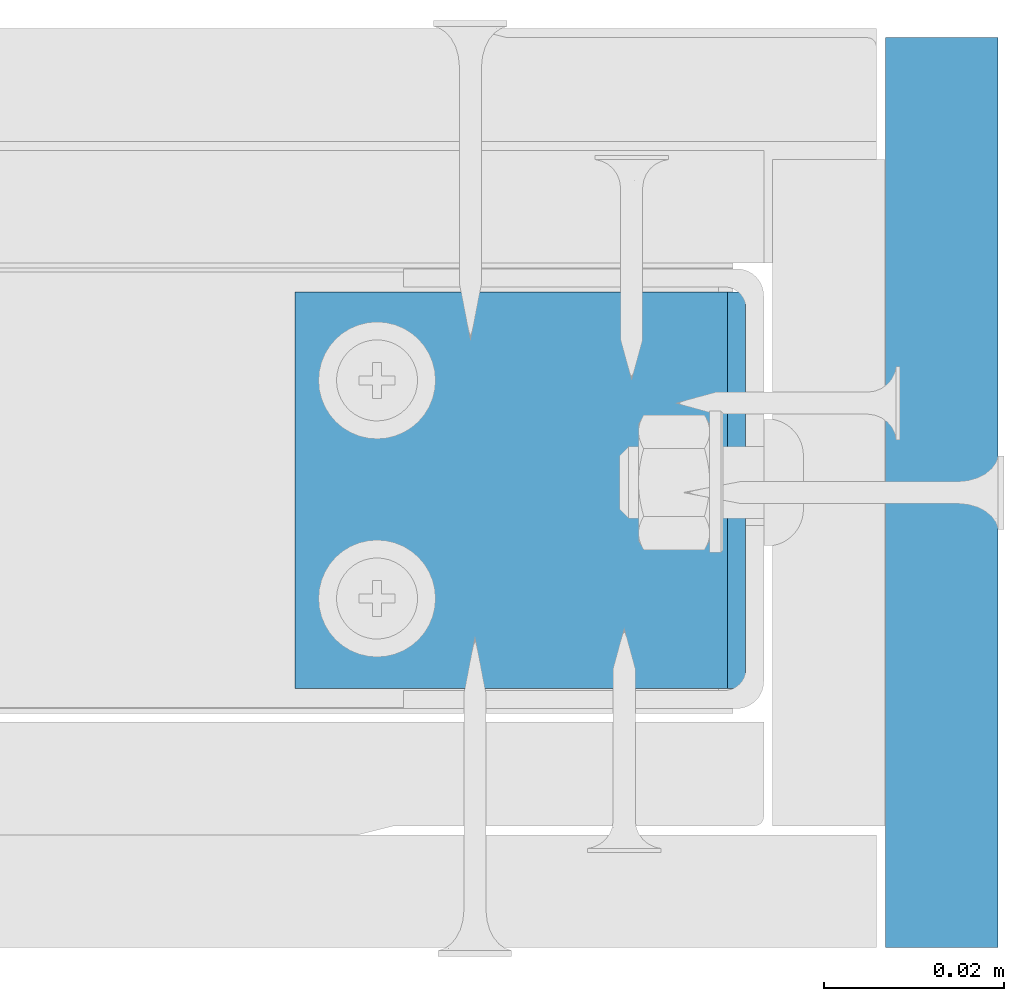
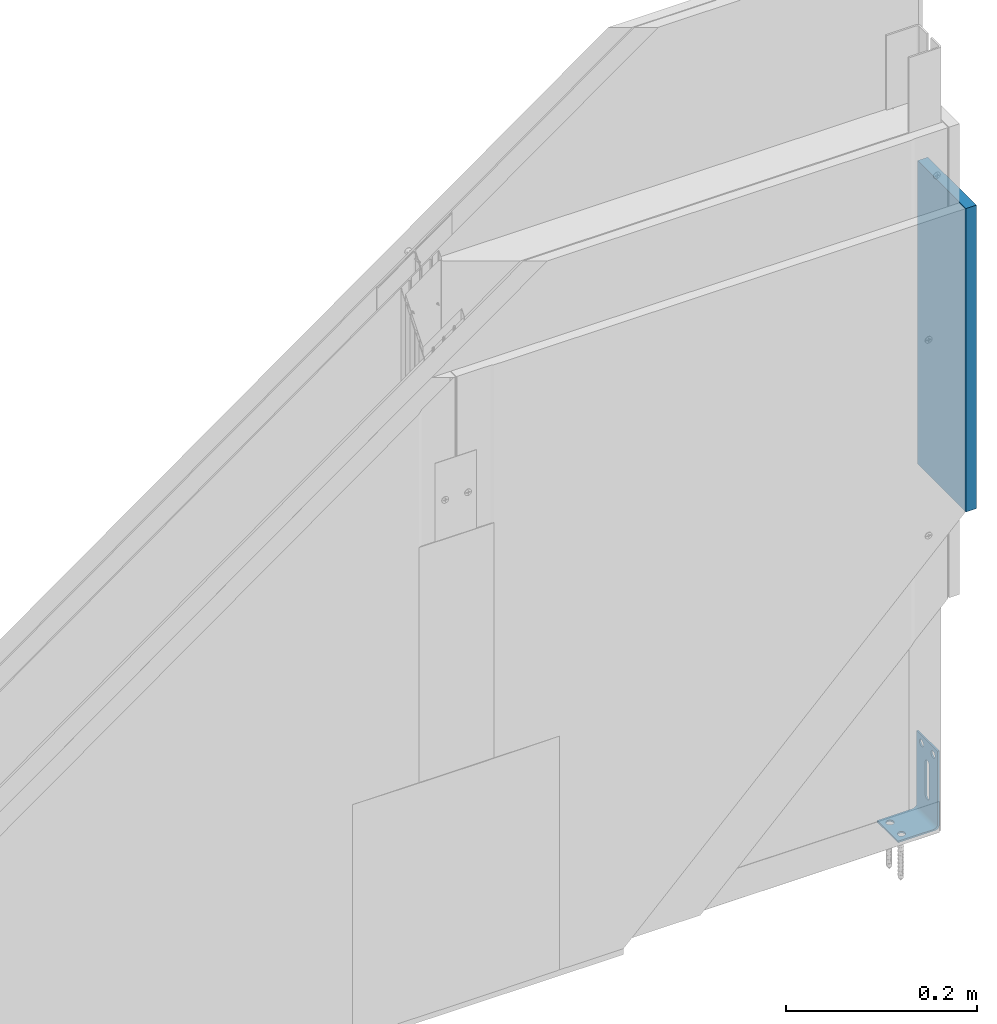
# One storey, part 4 of 52: 2 walls.
"""IFC2X3 building model written with IfcOpenShell, lengths in millimetres."""

import ifcopenshell
import ifcopenshell.guid

model = None  # the IFC model being written
_history = None  # IfcOwnerHistory: only IFC2X3 demands one
_inside = {}  # id of a spatial element -> (the spatial element, [elements in it])
_under = {}  # id of a project, library or spatial element -> (it, [spatial elements below it])
_declared = {}  # id of a project -> (the project, [libraries it declares])
_typed = {}  # id of a type object -> (the type object, [elements of that type])
_made_of = {}  # id of a material, layer set ... -> (it, [elements and type objects made of it])


def new_model(schema):
    """Start an empty IFC model of exactly this schema.

    Asked for "IFC4X3", IfcOpenShell would pick the latest addendum, in which some entities
    have other attributes; the version numbers below select the first issue.
    IFC2X3 requires an IfcOwnerHistory on every rooted entity: one is made here for all.
    """
    global model, _history
    if schema == "IFC4X3":
        model = ifcopenshell.file(schema_version=(4, 3, 0, 0))
    else:
        model = ifcopenshell.file(schema=schema)
    _inside.clear()
    _under.clear()
    _declared.clear()
    _typed.clear()
    _made_of.clear()
    _history = None
    if model.schema == "IFC2X3":
        org = make("IfcOrganization", Name="unknown")
        user = make(
            "IfcPersonAndOrganization",
            ThePerson=make("IfcPerson", FamilyName="unknown"),
            TheOrganization=org,
        )
        app = make(
            "IfcApplication",
            ApplicationDeveloper=org,
            Version="unknown",
            ApplicationFullName="unknown",
            ApplicationIdentifier="unknown",
        )
        _history = make(
            "IfcOwnerHistory",
            OwningUser=user,
            OwningApplication=app,
            ChangeAction="ADDED",
            CreationDate=0,
        )
    return model


def make(cls, **values):
    """One entity of the class cls with the attributes given. An attribute that is None is left unset."""
    return model.create_entity(
        cls, **{name: value for name, value in values.items() if value is not None}
    )


def entity(cls, *values):
    """Any entity or typed value of the class cls, its attributes in the order of the schema. None: left unset."""
    e = model.create_entity(cls)
    for i, value in enumerate(values):
        if value is not None:
            e[i] = value
    return e


def rooted(cls, **values):
    """An entity with a GlobalId (a new one), such as an element, a storey or a relation."""
    return make(cls, GlobalId=ifcopenshell.guid.new(), OwnerHistory=_history, **values)


def si_unit(unit_type, name, prefix=None):
    """IfcSIUnit, for example si_unit("LENGTHUNIT", "METRE", prefix="MILLI")."""
    return make("IfcSIUnit", UnitType=unit_type, Prefix=prefix, Name=name)


def converted_unit(unit_type, name, factor, base, dimensions=None, offset=None):
    """IfcConversionBasedUnit, such as the inch: factor (a typed value) times the base unit."""
    return make(
        "IfcConversionBasedUnit"
        if offset is None
        else "IfcConversionBasedUnitWithOffset",
        ConversionOffset=offset,
        Dimensions=None
        if dimensions is None
        else entity("IfcDimensionalExponents", *dimensions),
        UnitType=unit_type,
        Name=name,
        ConversionFactor=make(
            "IfcMeasureWithUnit", ValueComponent=factor, UnitComponent=base
        ),
    )


def assignment(units):
    """IfcUnitAssignment: the units of a project."""
    return None if units is None else make("IfcUnitAssignment", Units=units)


def point(xyz):
    """IfcCartesianPoint."""
    return None if xyz is None else make("IfcCartesianPoint", Coordinates=xyz)


def direction(xyz):
    """IfcDirection."""
    return None if xyz is None else make("IfcDirection", DirectionRatios=xyz)


def frame(location, z_axis=None, x_axis=None):
    """IfcAxis2Placement3D, a coordinate frame: its origin and axes. An axis left out is left unset."""
    return make(
        "IfcAxis2Placement3D",
        Location=point(location),
        Axis=direction(z_axis),
        RefDirection=direction(x_axis),
    )


def origin():
    """The frame at (0, 0, 0) with its axes left unset."""
    return frame((0.0, 0.0, 0.0))


def origin_with_axes():
    """The frame at (0, 0, 0) with the z axis (0, 0, 1) and the x axis (1, 0, 0) written out."""
    return frame((0.0, 0.0, 0.0), z_axis=(0.0, 0.0, 1.0), x_axis=(1.0, 0.0, 0.0))


def place(relative_to, where):
    """IfcLocalPlacement: puts the frame where relative to a parent placement (None: the world)."""
    return make(
        "IfcLocalPlacement", PlacementRelTo=relative_to, RelativePlacement=where
    )


def context(
    kind, dimensions, precision=None, world=None, true_north=None, identifier=None
):
    """IfcGeometricRepresentationContext, for example the 3D "Model" context."""
    return make(
        "IfcGeometricRepresentationContext",
        ContextIdentifier=identifier,
        ContextType=kind,
        CoordinateSpaceDimension=dimensions,
        Precision=precision,
        WorldCoordinateSystem=world,
        TrueNorth=true_north,
    )


def project(units=None, contexts=None):
    """IfcProject with its units and contexts."""
    return rooted(
        "IfcProject",
        Name="project",
        RepresentationContexts=contexts,
        UnitsInContext=assignment(units),
    )


def spatial(cls, under=None, at=None, **own):
    """A site, building, storey or space (cls), placed at a placement, below another one or the project."""
    s = rooted(cls, ObjectPlacement=at, **own)
    if under is not None:
        _under.setdefault(under.id(), (under, []))[1].append(s)
    return s


def faces_of(points, faces, orient=None, outer=None):
    """IfcFace entities. A face is a list of loops; a loop is a list of indices into points, from 0.

    orient and outer hold one flag for each loop. By default every Orientation is true, the
    first loop of a face is its IfcFaceOuterBound and the others are IfcFaceBound.
    """
    made = []
    for i, loops in enumerate(faces):
        bounds = []
        for j, loop in enumerate(loops):
            is_outer = j == 0 if outer is None else outer[i][j]
            bounds.append(
                make(
                    "IfcFaceOuterBound" if is_outer else "IfcFaceBound",
                    Bound=make("IfcPolyLoop", Polygon=[points[k] for k in loop]),
                    Orientation=True if orient is None else orient[i][j],
                )
            )
        made.append(make("IfcFace", Bounds=bounds))
    return made


def faceted_brep(points, faces, orient=None, outer=None, voids=None):
    """IfcFacetedBrep: a solid bounded by flat faces; with voids (closed shells), ...WithVoids."""
    shared = [point(p) for p in points]
    hull = make("IfcClosedShell", CfsFaces=faces_of(shared, faces, orient, outer))
    if voids is None:
        return make("IfcFacetedBrep", Outer=hull)
    return make(
        "IfcFacetedBrepWithVoids",
        Outer=hull,
        Voids=[
            make(cls, CfsFaces=faces_of(shared, fs, o, b)) for cls, fs, o, b in voids
        ],
    )


def shape(context_of_items, identifier, shape_type, items):
    """IfcShapeRepresentation: the items that make up one representation, for example the "Body"."""
    return make(
        "IfcShapeRepresentation",
        ContextOfItems=context_of_items,
        RepresentationIdentifier=identifier,
        RepresentationType=shape_type,
        Items=items,
    )


def made_of(thing, what):
    """Note that an element or type object is made of a material, layer set ...; save() writes the relation."""
    if what is not None:
        _made_of.setdefault(what.id(), (what, []))[1].append(thing)
    return thing


def element(
    cls,
    number,
    at=None,
    inside=None,
    cuts=None,
    type_object=None,
    material=None,
    context=None,
    identifier="Body",
    shape_type=None,
    held_by="IfcProductDefinitionShape",
    body=None,
    shapes=None,
    **own,
):
    """One element of the class cls, such as IfcWall. Its Tag is "e" and its number.

    at: its placement. inside: the storey or other place that contains it. cuts: it is an
    opening in that element (IfcRelVoidsElement). A single representation is given by context,
    identifier, shape_type and body (its items); several are given by shapes. held_by: the class
    of the entity that holds the representations. save() writes the other relations.
    """
    e = rooted(cls, Tag="e%d" % number, ObjectPlacement=at, **own)
    if body is not None:
        shapes = [shape(context, identifier, shape_type, body)]
    if shapes is not None:
        e.Representation = make(held_by, Representations=shapes)
    if inside is not None:
        _inside.setdefault(inside.id(), (inside, []))[1].append(e)
    if cuts is not None:
        rooted(
            "IfcRelVoidsElement", RelatingBuildingElement=cuts, RelatedOpeningElement=e
        )
    if type_object is not None:
        _typed.setdefault(type_object.id(), (type_object, []))[1].append(e)
    return made_of(e, material)


def aggregate(whole, parts):
    """IfcRelAggregates: a whole, such as a stair, and the parts it consists of."""
    return rooted("IfcRelAggregates", RelatingObject=whole, RelatedObjects=parts)


def save(model, path):
    """Write the relations noted so far, then the file.

    IfcRelAggregates (storeys below a building ...), IfcRelContainedInSpatialStructure (elements
    in a storey), IfcRelDefinesByType, IfcRelAssociatesMaterial and IfcRelDeclares: one each for
    every whole, place, type object, material and project.
    """
    for whole, parts in _under.values():
        aggregate(whole, parts)
    for where, things in _inside.values():
        rooted(
            "IfcRelContainedInSpatialStructure",
            RelatedElements=things,
            RelatingStructure=where,
        )
    for kind, things in _typed.values():
        rooted("IfcRelDefinesByType", RelatedObjects=things, RelatingType=kind)
    for what, things in _made_of.values():
        rooted("IfcRelAssociatesMaterial", RelatedObjects=things, RelatingMaterial=what)
    for by, libraries in _declared.values():
        rooted("IfcRelDeclares", RelatingContext=by, RelatedDefinitions=libraries)
    model.write(path)


model = new_model("IFC2X3")

# Units and contexts
model_context = context("Model", 3, precision=1e-05, world=origin(), true_north=direction((0.0, 1.0, 0.0)))
ifc_project = project(units=[si_unit("LENGTHUNIT", "METRE", prefix="MILLI"), si_unit("AREAUNIT", "SQUARE_METRE"), si_unit("VOLUMEUNIT", "CUBIC_METRE"), converted_unit("PLANEANGLEUNIT", "DEGREE", entity("IfcPlaneAngleMeasure", 0.01745), si_unit("PLANEANGLEUNIT", "RADIAN"), dimensions=[0, 0, 0, 0, 0, 0, 0]), si_unit("SOLIDANGLEUNIT", "STERADIAN"), si_unit("MASSUNIT", "GRAM"), si_unit("TIMEUNIT", "SECOND"), si_unit("THERMODYNAMICTEMPERATUREUNIT", "DEGREE_CELSIUS"), si_unit("LUMINOUSINTENSITYUNIT", "LUMEN")], contexts=[model_context])

# Site, building, storey
site_placement = place(None, origin_with_axes())
site = spatial("IfcSite", under=ifc_project, at=site_placement, Name="Default Site", CompositionType="ELEMENT")
building_placement = place(site_placement, origin_with_axes())
building = spatial("IfcBuilding", under=site, at=building_placement, Name="Default Building", CompositionType="ELEMENT")
storey_placement = place(building_placement, origin_with_axes())
storey = spatial("IfcBuildingStorey", under=building, at=storey_placement, Name="Default Building Storey", CompositionType="ELEMENT", Elevation=0.0)

# Walls
wall_1_placement = place(storey_placement, frame((3436.429648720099, 2018.940922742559, 55.74039522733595), z_axis=(0.0, 0.0, 1.0), x_axis=(4.996003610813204e-16, -1.0, 0.0)))
element("IfcWall", 1, at=wall_1_placement, inside=storey, Name="Katownik RIGIPS do UA50", context=model_context, shape_type="Brep", body=[
    faceted_brep([(0.0, 50.0, 5.000000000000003), (0.0, 49.93844170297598, 4.217827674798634), (0.0, 49.75528258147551, 3.454915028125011), (0.0, 49.45503262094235, 2.730047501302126), (0.0, 49.04508497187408, 2.06107373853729), (0.0, 48.53553390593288, 1.46446609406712), (0.0, 47.9389262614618, 0.9549150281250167), (0.0, 47.26995249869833, 0.5449673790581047), (0.0, 46.54508497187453, 0.2447174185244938), (0.0, 45.78217232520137, 0.06155829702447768), (0.0, 45.00000000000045, 0.0), (0.0, 0.0, 0.0), (0.0, 0.0, 1.999999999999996), (0.0, 42.99999999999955, 1.999999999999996), (0.0, 43.78217232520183, 2.061558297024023), (0.0, 44.54508497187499, 2.244717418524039), (0.0, 45.26995249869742, 2.544967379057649), (0.0, 45.93892626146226, 2.954915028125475), (0.0, 46.53553390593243, 3.464466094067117), (0.0, 47.04508497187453, 4.061073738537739), (0.0, 47.45503262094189, 4.730047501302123), (0.0, 47.75528258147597, 5.454915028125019), (0.0, 47.93844170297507, 6.21782767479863), (0.0, 47.99999999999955, 6.999999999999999), (0.0, 47.99999999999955, 100.0), (0.0, 50.0, 100.0), (44.0, 47.93844170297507, 6.21782767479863), (44.0, 47.75528258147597, 5.454915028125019), (44.0, 47.45503262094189, 4.730047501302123), (44.0, 47.04508497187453, 4.061073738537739), (44.0, 46.53553390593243, 3.464466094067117), (44.0, 45.93892626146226, 2.954915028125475), (44.0, 45.26995249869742, 2.544967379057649), (44.0, 44.54508497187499, 2.244717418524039), (44.0, 43.78217232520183, 2.061558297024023), (44.0, 42.99999999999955, 1.999999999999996), (44.0, 0.0, 1.999999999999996), (44.0, 0.0, 0.0), (44.0, 45.00000000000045, 0.0), (44.0, 45.78217232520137, 0.06155829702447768), (44.0, 46.54508497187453, 0.2447174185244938), (44.0, 47.26995249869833, 0.5449673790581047), (44.0, 47.9389262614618, 0.9549150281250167), (44.0, 48.53553390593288, 1.46446609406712), (44.0, 49.04508497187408, 2.06107373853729), (44.0, 49.45503262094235, 2.730047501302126), (44.0, 49.75528258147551, 3.454915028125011), (44.0, 49.93844170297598, 4.217827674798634), (44.0, 50.0, 5.000000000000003), (44.0, 50.0, 100.0), (44.0, 47.99999999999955, 100.0), (44.0, 47.99999999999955, 6.999999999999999), (14.19767544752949, 9.335153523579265, 0.0), (29.75000000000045, 9.999999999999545, 0.0), (29.80232455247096, 9.335153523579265, 0.0), (14.04199019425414, 8.686677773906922, 0.0), (32.07054037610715, 6.213222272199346, 0.0), (32.68667777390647, 5.958009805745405, 0.0), (33.33515352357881, 5.802324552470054, 0.0), (33.99999999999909, 5.75, 0.0), (34.66484647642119, 5.802324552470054, 0.0), (35.31332222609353, 5.958009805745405, 0.0), (35.92945962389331, 6.213222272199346, 0.0), (36.49808732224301, 6.561677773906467, 0.0), (37.00520382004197, 6.994796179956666, 0.0), (37.43832222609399, 7.501912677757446, 0.0), (37.7867777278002, 8.070540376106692, 0.0), (38.04199019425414, 8.686677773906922, 0.0), (38.19767544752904, 9.335153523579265, 0.0), (38.24999999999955, 9.999999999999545, 0.0), (38.19767544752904, 10.66484647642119, 0.0), (38.04199019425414, 11.31332222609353, 0.0), (37.7867777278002, 11.92945962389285, 0.0), (37.43832222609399, 12.49808732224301, 0.0), (37.00520382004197, 13.00520382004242, 0.0), (36.49808732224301, 13.43832222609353, 0.0), (35.92945962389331, 13.7867777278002, 0.0), (35.31332222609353, 14.04199019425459, 0.0), (34.66484647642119, 14.19767544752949, 0.0), (33.99999999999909, 14.25, 0.0), (33.33515352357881, 14.19767544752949, 0.0), (32.68667777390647, 14.04199019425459, 0.0), (32.07054037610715, 13.7867777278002, 0.0), (31.50191267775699, 13.43832222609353, 0.0), (30.99479617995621, 13.00520382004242, 0.0), (30.56167777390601, 12.49808732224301, 0.0), (30.21322227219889, 11.92945962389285, 0.0), (29.95800980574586, 11.31332222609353, 0.0), (29.80232455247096, 10.66484647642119, 0.0), (14.24999999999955, 9.999999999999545, 0.0), (14.19767544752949, 10.66484647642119, 0.0), (14.04199019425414, 11.31332222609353, 0.0), (13.78677772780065, 11.92945962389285, 0.0), (13.43832222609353, 12.49808732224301, 0.0), (13.00520382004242, 13.00520382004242, 0.0), (12.49808732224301, 13.43832222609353, 0.0), (11.92945962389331, 13.7867777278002, 0.0), (11.31332222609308, 14.04199019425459, 0.0), (10.66484647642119, 14.19767544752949, 0.0), (9.999999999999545, 14.25, 0.0), (9.335153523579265, 14.19767544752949, 0.0), (8.686677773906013, 14.04199019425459, 0.0), (8.070540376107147, 13.7867777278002, 0.0), (7.501912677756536, 13.43832222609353, 0.0), (6.994796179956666, 13.00520382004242, 0.0), (6.561677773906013, 12.49808732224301, 0.0), (6.213222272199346, 11.92945962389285, 0.0), (5.958009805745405, 11.31332222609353, 0.0), (5.802324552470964, 10.66484647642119, 0.0), (5.75, 9.999999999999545, 0.0), (5.802324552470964, 9.335153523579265, 0.0), (5.958009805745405, 8.686677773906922, 0.0), (6.213222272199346, 8.070540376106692, 0.0), (6.561677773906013, 7.501912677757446, 0.0), (6.994796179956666, 6.994796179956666, 0.0), (7.501912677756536, 6.561677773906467, 0.0), (8.070540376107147, 6.213222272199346, 0.0), (8.686677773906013, 5.958009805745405, 0.0), (9.335153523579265, 5.802324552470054, 0.0), (9.999999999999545, 5.75, 0.0), (10.66484647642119, 5.802324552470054, 0.0), (11.31332222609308, 5.958009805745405, 0.0), (11.92945962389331, 6.213222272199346, 0.0), (12.49808732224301, 6.561677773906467, 0.0), (13.00520382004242, 6.994796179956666, 0.0), (13.43832222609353, 7.501912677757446, 0.0), (13.78677772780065, 8.070540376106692, 0.0), (29.95800980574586, 8.686677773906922, 0.0), (30.21322227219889, 8.070540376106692, 0.0), (30.56167777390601, 7.501912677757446, 0.0), (30.99479617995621, 6.994796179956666, 0.0), (31.50191267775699, 6.561677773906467, 0.0), (14.24999999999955, 9.999999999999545, 1.999999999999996), (14.19767544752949, 9.335153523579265, 1.999999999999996), (29.80232455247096, 10.66484647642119, 1.999999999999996), (29.95800980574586, 11.31332222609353, 1.999999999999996), (5.958009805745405, 11.31332222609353, 1.999999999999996), (6.213222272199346, 11.92945962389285, 1.999999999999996), (6.561677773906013, 12.49808732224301, 1.999999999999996), (6.994796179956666, 13.00520382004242, 1.999999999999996), (7.501912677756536, 13.43832222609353, 1.999999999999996), (8.070540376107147, 13.7867777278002, 1.999999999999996), (8.686677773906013, 14.04199019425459, 1.999999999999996), (9.335153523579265, 14.19767544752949, 1.999999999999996), (9.999999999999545, 14.25, 1.999999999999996), (10.66484647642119, 14.19767544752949, 1.999999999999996), (11.31332222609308, 14.04199019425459, 1.999999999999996), (11.92945962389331, 13.7867777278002, 1.999999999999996), (12.49808732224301, 13.43832222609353, 1.999999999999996), (13.00520382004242, 13.00520382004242, 1.999999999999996), (13.43832222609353, 12.49808732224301, 1.999999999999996), (13.78677772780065, 11.92945962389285, 1.999999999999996), (14.04199019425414, 11.31332222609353, 1.999999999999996), (14.19767544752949, 10.66484647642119, 1.999999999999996), (30.21322227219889, 11.92945962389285, 1.999999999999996), (30.56167777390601, 12.49808732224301, 1.999999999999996), (30.99479617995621, 13.00520382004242, 1.999999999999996), (31.50191267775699, 13.43832222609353, 1.999999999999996), (32.07054037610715, 13.7867777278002, 1.999999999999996), (32.68667777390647, 14.04199019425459, 1.999999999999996), (33.33515352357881, 14.19767544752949, 1.999999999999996), (33.99999999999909, 14.25, 1.999999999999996), (34.66484647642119, 14.19767544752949, 1.999999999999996), (35.31332222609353, 14.04199019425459, 1.999999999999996), (35.92945962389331, 13.7867777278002, 1.999999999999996), (36.49808732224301, 13.43832222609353, 1.999999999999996), (37.00520382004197, 13.00520382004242, 1.999999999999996), (37.43832222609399, 12.49808732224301, 1.999999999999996), (37.7867777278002, 11.92945962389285, 1.999999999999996), (38.04199019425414, 11.31332222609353, 1.999999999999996), (38.19767544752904, 10.66484647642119, 1.999999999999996), (38.24999999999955, 9.999999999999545, 1.999999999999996), (38.19767544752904, 9.335153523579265, 1.999999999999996), (38.04199019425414, 8.686677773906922, 1.999999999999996), (37.7867777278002, 8.070540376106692, 1.999999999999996), (37.43832222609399, 7.501912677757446, 1.999999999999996), (37.00520382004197, 6.994796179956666, 1.999999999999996), (36.49808732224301, 6.561677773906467, 1.999999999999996), (35.92945962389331, 6.213222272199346, 1.999999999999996), (35.31332222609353, 5.958009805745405, 1.999999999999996), (34.66484647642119, 5.802324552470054, 1.999999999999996), (33.99999999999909, 5.75, 1.999999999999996), (33.33515352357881, 5.802324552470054, 1.999999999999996), (32.68667777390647, 5.958009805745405, 1.999999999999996), (32.07054037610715, 6.213222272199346, 1.999999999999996), (31.50191267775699, 6.561677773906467, 1.999999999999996), (30.99479617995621, 6.994796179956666, 1.999999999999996), (30.56167777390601, 7.501912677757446, 1.999999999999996), (30.21322227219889, 8.070540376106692, 1.999999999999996), (29.95800980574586, 8.686677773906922, 1.999999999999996), (29.80232455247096, 9.335153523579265, 1.999999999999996), (29.75000000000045, 9.999999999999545, 1.999999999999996), (14.04199019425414, 8.686677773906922, 1.999999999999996), (13.78677772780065, 8.070540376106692, 1.999999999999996), (13.43832222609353, 7.501912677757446, 1.999999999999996), (13.00520382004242, 6.994796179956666, 1.999999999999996), (12.49808732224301, 6.561677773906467, 1.999999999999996), (11.92945962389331, 6.213222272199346, 1.999999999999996), (11.31332222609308, 5.958009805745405, 1.999999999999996), (10.66484647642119, 5.802324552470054, 1.999999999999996), (9.999999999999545, 5.75, 1.999999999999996), (9.335153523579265, 5.802324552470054, 1.999999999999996), (8.686677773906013, 5.958009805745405, 1.999999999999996), (8.070540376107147, 6.213222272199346, 1.999999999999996), (7.501912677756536, 6.561677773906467, 1.999999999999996), (6.994796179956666, 6.994796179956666, 1.999999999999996), (6.561677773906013, 7.501912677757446, 1.999999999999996), (6.213222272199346, 8.070540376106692, 1.999999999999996), (5.958009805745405, 8.686677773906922, 1.999999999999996), (5.802324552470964, 9.335153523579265, 1.999999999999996), (5.75, 9.999999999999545, 1.999999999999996), (5.802324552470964, 10.66484647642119, 1.999999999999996), (20.07054037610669, 47.99999999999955, 74.53677772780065), (20.68667777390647, 47.99999999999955, 74.7919901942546), (21.33515352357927, 47.99999999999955, 74.94767544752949), (22.0, 47.99999999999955, 75.0), (22.66484647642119, 47.99999999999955, 74.94767544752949), (23.31332222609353, 47.99999999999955, 74.7919901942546), (29.75000000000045, 47.99999999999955, 90.0), (29.80232455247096, 47.99999999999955, 90.66484647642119), (14.19767544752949, 47.99999999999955, 89.33515352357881), (14.04199019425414, 47.99999999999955, 88.68667777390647), (22.0, 47.99999999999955, 25.0), (22.66484647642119, 47.99999999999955, 25.05232455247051), (21.33515352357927, 47.99999999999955, 25.05232455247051), (20.68667777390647, 47.99999999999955, 25.20800980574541), (20.07054037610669, 47.99999999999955, 25.46322227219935), (19.50191267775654, 47.99999999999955, 25.81167777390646), (18.99479617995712, 47.99999999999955, 26.24479617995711), (18.56167777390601, 47.99999999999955, 26.75191267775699), (18.21322227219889, 47.99999999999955, 27.32054037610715), (17.95800980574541, 47.99999999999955, 27.93667777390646), (17.80232455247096, 47.99999999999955, 28.5851535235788), (17.75, 47.99999999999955, 29.25), (17.75, 47.99999999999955, 70.75), (17.80232455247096, 47.99999999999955, 71.41484647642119), (17.95800980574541, 47.99999999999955, 72.06332222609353), (18.21322227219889, 47.99999999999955, 72.67945962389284), (18.56167777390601, 47.99999999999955, 73.24808732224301), (18.99479617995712, 47.99999999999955, 73.7552038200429), (19.50191267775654, 47.99999999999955, 74.18832222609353), (13.78677772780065, 47.99999999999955, 88.07054037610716), (13.43832222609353, 47.99999999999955, 87.50191267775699), (13.00520382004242, 47.99999999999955, 86.99479617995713), (12.49808732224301, 47.99999999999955, 86.56167777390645), (11.92945962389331, 47.99999999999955, 86.21322227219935), (11.31332222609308, 47.99999999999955, 85.9580098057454), (10.66484647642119, 47.99999999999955, 85.80232455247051), (9.999999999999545, 47.99999999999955, 85.75), (9.335153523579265, 47.99999999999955, 85.80232455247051), (8.686677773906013, 47.99999999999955, 85.9580098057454), (8.070540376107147, 47.99999999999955, 86.21322227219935), (7.501912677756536, 47.99999999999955, 86.56167777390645), (6.994796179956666, 47.99999999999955, 86.99479617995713), (6.561677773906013, 47.99999999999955, 87.50191267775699), (6.213222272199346, 47.99999999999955, 88.07054037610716), (5.958009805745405, 47.99999999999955, 88.68667777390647), (5.802324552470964, 47.99999999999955, 89.33515352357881), (5.75, 47.99999999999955, 90.0), (5.802324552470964, 47.99999999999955, 90.66484647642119), (5.958009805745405, 47.99999999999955, 91.31332222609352), (6.213222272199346, 47.99999999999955, 91.92945962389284), (6.561677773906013, 47.99999999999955, 92.498087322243), (6.994796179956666, 47.99999999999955, 93.0052038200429), (7.501912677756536, 47.99999999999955, 93.43832222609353), (8.070540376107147, 47.99999999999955, 93.78677772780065), (8.686677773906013, 47.99999999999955, 94.0419901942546), (9.335153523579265, 47.99999999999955, 94.19767544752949), (9.999999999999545, 47.99999999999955, 94.25), (10.66484647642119, 47.99999999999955, 94.19767544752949), (11.31332222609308, 47.99999999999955, 94.0419901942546), (11.92945962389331, 47.99999999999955, 93.78677772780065), (12.49808732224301, 47.99999999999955, 93.43832222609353), (13.00520382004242, 47.99999999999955, 93.0052038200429), (13.43832222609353, 47.99999999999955, 92.498087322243), (13.78677772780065, 47.99999999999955, 91.92945962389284), (14.04199019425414, 47.99999999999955, 91.31332222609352), (14.19767544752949, 47.99999999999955, 90.66484647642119), (14.24999999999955, 47.99999999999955, 90.0), (29.95800980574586, 47.99999999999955, 91.31332222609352), (30.21322227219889, 47.99999999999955, 91.92945962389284), (30.56167777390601, 47.99999999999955, 92.498087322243), (30.99479617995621, 47.99999999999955, 93.0052038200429), (31.50191267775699, 47.99999999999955, 93.43832222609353), (32.07054037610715, 47.99999999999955, 93.78677772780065), (32.68667777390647, 47.99999999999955, 94.0419901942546), (33.33515352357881, 47.99999999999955, 94.19767544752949), (33.99999999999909, 47.99999999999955, 94.25), (34.66484647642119, 47.99999999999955, 94.19767544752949), (35.31332222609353, 47.99999999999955, 94.0419901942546), (35.92945962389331, 47.99999999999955, 93.78677772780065), (36.49808732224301, 47.99999999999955, 93.43832222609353), (37.00520382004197, 47.99999999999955, 93.0052038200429), (37.43832222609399, 47.99999999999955, 92.498087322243), (37.7867777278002, 47.99999999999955, 91.92945962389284), (38.04199019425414, 47.99999999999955, 91.31332222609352), (38.19767544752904, 47.99999999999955, 90.66484647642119), (38.24999999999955, 47.99999999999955, 90.0), (38.19767544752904, 47.99999999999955, 89.33515352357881), (38.04199019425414, 47.99999999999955, 88.68667777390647), (37.7867777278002, 47.99999999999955, 88.07054037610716), (37.43832222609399, 47.99999999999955, 87.50191267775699), (37.00520382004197, 47.99999999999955, 86.99479617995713), (36.49808732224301, 47.99999999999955, 86.56167777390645), (35.92945962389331, 47.99999999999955, 86.21322227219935), (35.31332222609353, 47.99999999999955, 85.9580098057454), (34.66484647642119, 47.99999999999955, 85.80232455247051), (33.99999999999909, 47.99999999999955, 85.75), (33.33515352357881, 47.99999999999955, 85.80232455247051), (32.68667777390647, 47.99999999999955, 85.9580098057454), (32.07054037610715, 47.99999999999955, 86.21322227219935), (31.50191267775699, 47.99999999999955, 86.56167777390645), (30.99479617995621, 47.99999999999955, 86.99479617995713), (30.56167777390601, 47.99999999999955, 87.50191267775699), (30.21322227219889, 47.99999999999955, 88.07054037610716), (29.95800980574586, 47.99999999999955, 88.68667777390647), (29.80232455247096, 47.99999999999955, 89.33515352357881), (23.92945962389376, 47.99999999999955, 74.53677772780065), (24.49808732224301, 47.99999999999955, 74.18832222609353), (25.00520382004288, 47.99999999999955, 73.7552038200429), (25.43832222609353, 47.99999999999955, 73.24808732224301), (25.78677772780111, 47.99999999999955, 72.67945962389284), (26.04199019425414, 47.99999999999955, 72.06332222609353), (26.19767544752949, 47.99999999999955, 71.41484647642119), (26.24999999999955, 47.99999999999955, 70.75), (26.24999999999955, 47.99999999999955, 29.25), (26.19767544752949, 47.99999999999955, 28.5851535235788), (26.04199019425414, 47.99999999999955, 27.93667777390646), (25.78677772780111, 47.99999999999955, 27.32054037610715), (25.43832222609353, 47.99999999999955, 26.75191267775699), (25.00520382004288, 47.99999999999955, 26.24479617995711), (24.49808732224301, 47.99999999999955, 25.81167777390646), (23.92945962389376, 47.99999999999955, 25.46322227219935), (23.31332222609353, 47.99999999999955, 25.20800980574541), (29.80232455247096, 50.0, 90.66484647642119), (14.24999999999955, 50.0, 90.0), (14.19767544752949, 50.0, 90.66484647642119), (29.95800980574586, 50.0, 91.31332222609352), (9.335153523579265, 50.0, 85.80232455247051), (9.999999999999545, 50.0, 85.75), (17.75, 50.0, 29.25), (17.80232455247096, 50.0, 28.5851535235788), (22.0, 50.0, 25.0), (21.33515352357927, 50.0, 25.05232455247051), (22.66484647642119, 50.0, 25.05232455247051), (23.31332222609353, 50.0, 25.20800980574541), (23.92945962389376, 50.0, 25.46322227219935), (24.49808732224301, 50.0, 25.81167777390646), (25.00520382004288, 50.0, 26.24479617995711), (25.43832222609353, 50.0, 26.75191267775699), (25.78677772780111, 50.0, 27.32054037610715), (26.04199019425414, 50.0, 27.93667777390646), (26.19767544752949, 50.0, 28.5851535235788), (26.24999999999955, 50.0, 29.25), (26.24999999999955, 50.0, 70.75), (26.19767544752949, 50.0, 71.41484647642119), (26.04199019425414, 50.0, 72.06332222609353), (25.78677772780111, 50.0, 72.67945962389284), (25.43832222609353, 50.0, 73.24808732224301), (25.00520382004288, 50.0, 73.7552038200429), (24.49808732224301, 50.0, 74.18832222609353), (23.92945962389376, 50.0, 74.53677772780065), (23.31332222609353, 50.0, 74.7919901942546), (22.66484647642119, 50.0, 74.94767544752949), (22.0, 50.0, 75.0), (21.33515352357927, 50.0, 74.94767544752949), (20.68667777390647, 50.0, 74.7919901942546), (20.07054037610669, 50.0, 74.53677772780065), (19.50191267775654, 50.0, 74.18832222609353), (18.99479617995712, 50.0, 73.7552038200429), (18.56167777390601, 50.0, 73.24808732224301), (18.21322227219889, 50.0, 72.67945962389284), (17.95800980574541, 50.0, 72.06332222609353), (17.80232455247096, 50.0, 71.41484647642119), (17.75, 50.0, 70.75), (10.66484647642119, 50.0, 85.80232455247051), (11.31332222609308, 50.0, 85.9580098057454), (11.92945962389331, 50.0, 86.21322227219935), (12.49808732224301, 50.0, 86.56167777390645), (13.00520382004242, 50.0, 86.99479617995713), (13.43832222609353, 50.0, 87.50191267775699), (13.78677772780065, 50.0, 88.07054037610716), (14.04199019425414, 50.0, 88.68667777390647), (14.19767544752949, 50.0, 89.33515352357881), (29.75000000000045, 50.0, 90.0), (29.80232455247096, 50.0, 89.33515352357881), (29.95800980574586, 50.0, 88.68667777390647), (30.21322227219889, 50.0, 88.07054037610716), (30.56167777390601, 50.0, 87.50191267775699), (30.99479617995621, 50.0, 86.99479617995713), (31.50191267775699, 50.0, 86.56167777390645), (32.07054037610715, 50.0, 86.21322227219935), (32.68667777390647, 50.0, 85.9580098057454), (33.33515352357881, 50.0, 85.80232455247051), (33.99999999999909, 50.0, 85.75), (34.66484647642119, 50.0, 85.80232455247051), (35.31332222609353, 50.0, 85.9580098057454), (35.92945962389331, 50.0, 86.21322227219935), (36.49808732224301, 50.0, 86.56167777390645), (37.00520382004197, 50.0, 86.99479617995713), (37.43832222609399, 50.0, 87.50191267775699), (37.7867777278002, 50.0, 88.07054037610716), (38.04199019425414, 50.0, 88.68667777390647), (38.19767544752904, 50.0, 89.33515352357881), (38.24999999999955, 50.0, 90.0), (38.19767544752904, 50.0, 90.66484647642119), (38.04199019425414, 50.0, 91.31332222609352), (37.7867777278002, 50.0, 91.92945962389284), (37.43832222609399, 50.0, 92.498087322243), (37.00520382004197, 50.0, 93.0052038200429), (36.49808732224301, 50.0, 93.43832222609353), (35.92945962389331, 50.0, 93.78677772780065), (35.31332222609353, 50.0, 94.0419901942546), (34.66484647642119, 50.0, 94.19767544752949), (33.99999999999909, 50.0, 94.25), (33.33515352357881, 50.0, 94.19767544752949), (32.68667777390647, 50.0, 94.0419901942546), (32.07054037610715, 50.0, 93.78677772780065), (31.50191267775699, 50.0, 93.43832222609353), (30.99479617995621, 50.0, 93.0052038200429), (30.56167777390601, 50.0, 92.498087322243), (30.21322227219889, 50.0, 91.92945962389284), (14.04199019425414, 50.0, 91.31332222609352), (13.78677772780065, 50.0, 91.92945962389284), (13.43832222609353, 50.0, 92.498087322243), (13.00520382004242, 50.0, 93.0052038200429), (12.49808732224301, 50.0, 93.43832222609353), (11.92945962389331, 50.0, 93.78677772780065), (11.31332222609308, 50.0, 94.0419901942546), (10.66484647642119, 50.0, 94.19767544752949), (9.999999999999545, 50.0, 94.25), (9.335153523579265, 50.0, 94.19767544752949), (8.686677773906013, 50.0, 94.0419901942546), (8.070540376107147, 50.0, 93.78677772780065), (7.501912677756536, 50.0, 93.43832222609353), (6.994796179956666, 50.0, 93.0052038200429), (6.561677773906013, 50.0, 92.498087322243), (6.213222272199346, 50.0, 91.92945962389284), (5.958009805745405, 50.0, 91.31332222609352), (5.802324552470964, 50.0, 90.66484647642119), (5.75, 50.0, 90.0), (5.802324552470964, 50.0, 89.33515352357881), (5.958009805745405, 50.0, 88.68667777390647), (6.213222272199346, 50.0, 88.07054037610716), (6.561677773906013, 50.0, 87.50191267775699), (6.994796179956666, 50.0, 86.99479617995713), (7.501912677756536, 50.0, 86.56167777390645), (8.070540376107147, 50.0, 86.21322227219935), (8.686677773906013, 50.0, 85.9580098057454), (17.95800980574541, 50.0, 27.93667777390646), (18.21322227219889, 50.0, 27.32054037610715), (18.56167777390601, 50.0, 26.75191267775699), (18.99479617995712, 50.0, 26.24479617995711), (19.50191267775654, 50.0, 25.81167777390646), (20.07054037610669, 50.0, 25.46322227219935), (20.68667777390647, 50.0, 25.20800980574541)], [[[0, 1, 2, 3, 4, 5, 6, 7, 8, 9, 10, 11, 12, 13, 14, 15, 16, 17, 18, 19, 20, 21, 22, 23, 24, 25]], [[26, 27, 28, 29, 30, 31, 32, 33, 34, 35, 36, 37, 38, 39, 40, 41, 42, 43, 44, 45, 46, 47, 48, 49, 50, 51]], [[52, 53, 54, 55]], [[56, 57, 37, 11]], [[11, 10, 38, 37, 57, 58, 59, 60, 61, 62, 63, 64, 65, 66, 67, 68, 69, 70, 71, 72, 73, 74, 75, 76, 77, 78, 79, 80, 81, 82, 83, 84, 85, 86, 87, 88, 53, 52, 89, 90, 91, 92, 93, 94, 95, 96, 97, 98, 99, 100, 101, 102, 103, 104, 105, 106, 107, 108, 109, 110, 111, 112, 113, 114, 115, 116, 117, 118, 119, 120, 121, 122, 123, 124, 125, 126, 55, 54, 127, 128, 129, 130, 131, 56]], [[11, 37, 36, 12]], [[132, 133, 134, 135]], [[136, 137, 13, 12]], [[12, 36, 35, 13, 137, 138, 139, 140, 141, 142, 143, 144, 145, 146, 147, 148, 149, 150, 151, 152, 153, 132, 135, 154, 155, 156, 157, 158, 159, 160, 161, 162, 163, 164, 165, 166, 167, 168, 169, 170, 171, 172, 173, 174, 175, 176, 177, 178, 179, 180, 181, 182, 183, 184, 185, 186, 187, 188, 189, 190, 191, 134, 133, 192, 193, 194, 195, 196, 197, 198, 199, 200, 201, 202, 203, 204, 205, 206, 207, 208, 209, 210, 211, 136]], [[51, 23, 22, 26]], [[21, 27, 26, 22]], [[20, 28, 27, 21]], [[28, 20, 19, 29]], [[18, 30, 29, 19]], [[30, 18, 17, 31]], [[16, 32, 31, 17]], [[15, 33, 32, 16]], [[33, 15, 14, 34]], [[13, 35, 34, 14]], [[212, 213, 214, 215, 216, 217, 218, 219, 220, 221]], [[222, 23, 51, 223]], [[51, 50, 24, 23, 222, 224, 225, 226, 227, 228, 229, 230, 231, 232, 233, 234, 235, 236, 237, 238, 239, 240, 212, 221, 241, 242, 243, 244, 245, 246, 247, 248, 249, 250, 251, 252, 253, 254, 255, 256, 257, 258, 259, 260, 261, 262, 263, 264, 265, 266, 267, 268, 269, 270, 271, 272, 273, 274, 275, 276, 277, 278, 220, 219, 279, 280, 281, 282, 283, 284, 285, 286, 287, 288, 289, 290, 291, 292, 293, 294, 295, 296, 297, 298, 299, 300, 301, 302, 303, 304, 305, 306, 307, 308, 309, 310, 311, 312, 313, 314, 315, 316, 218, 217, 317, 318, 319, 320, 321, 322, 323, 324, 325, 326, 327, 328, 329, 330, 331, 332, 333, 223]], [[24, 50, 49, 25]], [[334, 335, 336, 337]], [[338, 339, 340, 341]], [[342, 48, 0, 343]], [[0, 25, 49, 48, 342, 344, 345, 346, 347, 348, 349, 350, 351, 352, 353, 354, 355, 356, 357, 358, 359, 360, 361, 362, 363, 364, 365, 366, 367, 368, 369, 370, 371, 372, 373, 374, 340, 339, 375, 376, 377, 378, 379, 380, 381, 382, 383, 335, 334, 384, 385, 386, 387, 388, 389, 390, 391, 392, 393, 394, 395, 396, 397, 398, 399, 400, 401, 402, 403, 404, 405, 406, 407, 408, 409, 410, 411, 412, 413, 414, 415, 416, 417, 418, 419, 420, 421, 337, 336, 422, 423, 424, 425, 426, 427, 428, 429, 430, 431, 432, 433, 434, 435, 436, 437, 438, 439, 440, 441, 442, 443, 444, 445, 446, 447, 448, 338, 341, 449, 450, 451, 452, 453, 454, 455, 343]], [[9, 8, 40, 39]], [[39, 38, 10, 9]], [[7, 41, 40, 8]], [[6, 5, 43, 42]], [[42, 41, 7, 6]], [[4, 3, 45, 44]], [[44, 43, 5, 4]], [[2, 46, 45, 3]], [[1, 0, 48, 47]], [[47, 46, 2, 1]], [[53, 191, 190, 54]], [[189, 127, 54, 190]], [[188, 128, 127, 189]], [[128, 188, 187, 129]], [[186, 130, 129, 187]], [[130, 186, 185, 131]], [[184, 56, 131, 185]], [[183, 57, 56, 184]], [[57, 183, 182, 58]], [[181, 59, 58, 182]], [[59, 181, 180, 60]], [[179, 61, 60, 180]], [[178, 62, 61, 179]], [[62, 178, 177, 63]], [[176, 64, 63, 177]], [[64, 176, 175, 65]], [[174, 66, 65, 175]], [[173, 67, 66, 174]], [[170, 70, 69, 171]], [[171, 69, 68, 172]], [[67, 173, 172, 68]], [[169, 71, 70, 170]], [[168, 72, 71, 169]], [[72, 168, 167, 73]], [[166, 74, 73, 167]], [[74, 166, 165, 75]], [[164, 76, 75, 165]], [[163, 77, 76, 164]], [[77, 163, 162, 78]], [[161, 79, 78, 162]], [[79, 161, 160, 80]], [[159, 81, 80, 160]], [[158, 82, 81, 159]], [[82, 158, 157, 83]], [[156, 84, 83, 157]], [[84, 156, 155, 85]], [[154, 86, 85, 155]], [[135, 87, 86, 154]], [[87, 135, 134, 88]], [[191, 53, 88, 134]], [[109, 210, 209, 110]], [[208, 111, 110, 209]], [[207, 112, 111, 208]], [[112, 207, 206, 113]], [[205, 114, 113, 206]], [[114, 205, 204, 115]], [[203, 116, 115, 204]], [[202, 117, 116, 203]], [[117, 202, 201, 118]], [[200, 119, 118, 201]], [[119, 200, 199, 120]], [[198, 121, 120, 199]], [[197, 122, 121, 198]], [[122, 197, 196, 123]], [[195, 124, 123, 196]], [[124, 195, 194, 125]], [[193, 126, 125, 194]], [[192, 55, 126, 193]], [[153, 90, 89, 132]], [[132, 89, 52, 133]], [[55, 192, 133, 52]], [[152, 91, 90, 153]], [[151, 92, 91, 152]], [[92, 151, 150, 93]], [[149, 94, 93, 150]], [[94, 149, 148, 95]], [[147, 96, 95, 148]], [[146, 97, 96, 147]], [[97, 146, 145, 98]], [[144, 99, 98, 145]], [[99, 144, 143, 100]], [[142, 101, 100, 143]], [[141, 102, 101, 142]], [[102, 141, 140, 103]], [[139, 104, 103, 140]], [[104, 139, 138, 105]], [[137, 106, 105, 138]], [[136, 107, 106, 137]], [[107, 136, 211, 108]], [[210, 109, 108, 211]], [[353, 325, 324, 354]], [[340, 233, 232, 341]], [[231, 449, 341, 232]], [[230, 450, 449, 231]], [[450, 230, 229, 451]], [[228, 452, 451, 229]], [[452, 228, 227, 453]], [[226, 454, 453, 227]], [[225, 455, 454, 226]], [[455, 225, 224, 343]], [[222, 342, 343, 224]], [[342, 222, 223, 344]], [[333, 345, 344, 223]], [[332, 346, 345, 333]], [[346, 332, 331, 347]], [[330, 348, 347, 331]], [[348, 330, 329, 349]], [[328, 350, 349, 329]], [[327, 351, 350, 328]], [[351, 327, 326, 352]], [[325, 353, 352, 326]], [[374, 234, 233, 340]], [[354, 324, 323, 355]], [[322, 356, 355, 323]], [[321, 357, 356, 322]], [[357, 321, 320, 358]], [[319, 359, 358, 320]], [[359, 319, 318, 360]], [[317, 361, 360, 318]], [[217, 362, 361, 317]], [[362, 217, 216, 363]], [[215, 364, 363, 216]], [[364, 215, 214, 365]], [[213, 366, 365, 214]], [[212, 367, 366, 213]], [[367, 212, 240, 368]], [[239, 369, 368, 240]], [[369, 239, 238, 370]], [[237, 371, 370, 238]], [[236, 372, 371, 237]], [[372, 236, 235, 373]], [[234, 374, 373, 235]], [[258, 440, 439, 259]], [[438, 260, 259, 439]], [[437, 261, 260, 438]], [[261, 437, 436, 262]], [[435, 263, 262, 436]], [[263, 435, 434, 264]], [[433, 265, 264, 434]], [[432, 266, 265, 433]], [[266, 432, 431, 267]], [[430, 268, 267, 431]], [[268, 430, 429, 269]], [[428, 270, 269, 429]], [[427, 271, 270, 428]], [[271, 427, 426, 272]], [[425, 273, 272, 426]], [[273, 425, 424, 274]], [[423, 275, 274, 424]], [[422, 276, 275, 423]], [[383, 220, 278, 335]], [[335, 278, 277, 336]], [[276, 422, 336, 277]], [[382, 221, 220, 383]], [[381, 241, 221, 382]], [[241, 381, 380, 242]], [[379, 243, 242, 380]], [[243, 379, 378, 244]], [[377, 245, 244, 378]], [[376, 246, 245, 377]], [[246, 376, 375, 247]], [[339, 248, 247, 375]], [[248, 339, 338, 249]], [[448, 250, 249, 338]], [[447, 251, 250, 448]], [[251, 447, 446, 252]], [[445, 253, 252, 446]], [[253, 445, 444, 254]], [[443, 255, 254, 444]], [[442, 256, 255, 443]], [[256, 442, 441, 257]], [[440, 258, 257, 441]], [[218, 384, 334, 219]], [[337, 279, 219, 334]], [[421, 280, 279, 337]], [[280, 421, 420, 281]], [[419, 282, 281, 420]], [[282, 419, 418, 283]], [[417, 284, 283, 418]], [[416, 285, 284, 417]], [[285, 416, 415, 286]], [[414, 287, 286, 415]], [[287, 414, 413, 288]], [[412, 289, 288, 413]], [[411, 290, 289, 412]], [[290, 411, 410, 291]], [[409, 292, 291, 410]], [[292, 409, 408, 293]], [[407, 294, 293, 408]], [[406, 295, 294, 407]], [[403, 298, 297, 404]], [[404, 297, 296, 405]], [[295, 406, 405, 296]], [[402, 299, 298, 403]], [[401, 300, 299, 402]], [[300, 401, 400, 301]], [[399, 302, 301, 400]], [[302, 399, 398, 303]], [[397, 304, 303, 398]], [[396, 305, 304, 397]], [[305, 396, 395, 306]], [[394, 307, 306, 395]], [[307, 394, 393, 308]], [[392, 309, 308, 393]], [[391, 310, 309, 392]], [[310, 391, 390, 311]], [[389, 312, 311, 390]], [[312, 389, 388, 313]], [[387, 314, 313, 388]], [[386, 315, 314, 387]], [[315, 386, 385, 316]], [[384, 218, 316, 385]]]),
])
wall_2_placement = place(storey_placement, frame((3501.929648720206, 2090.376833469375, 1237.777728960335), z_axis=(0.0, 0.0, 1.0), x_axis=(1.110223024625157e-16, -1.0, 0.0)))
element("IfcWall", 2, at=wall_2_placement, inside=storey, Name="Płyta gipsowo-kartonowa RIGIPS PRO (4PRO™)", context=model_context, shape_type="Brep", body=[
    faceted_brep([(43.23591072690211, -2.382307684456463e-11, -377.7777289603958), (43.23591072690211, 12.50000000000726, -377.7777289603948), (43.23591072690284, 12.50000000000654, -765.2793106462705), (43.23591072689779, -7.219114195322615e-13, -765.2793106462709), (144.1967559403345, 12.49999999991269, -377.7777289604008), (144.1967559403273, -8.879510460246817e-11, -377.7777289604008), (144.1967559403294, -8.951701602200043e-11, -765.2793106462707), (144.1967559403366, 12.49999999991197, -765.2793106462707)], [[[0, 1, 2, 3]], [[4, 5, 6, 7]], [[4, 1, 0, 5]], [[4, 7, 2, 1]], [[0, 3, 6, 5]], [[2, 7, 6, 3]]]),
])

save(model, "model.ifc")
